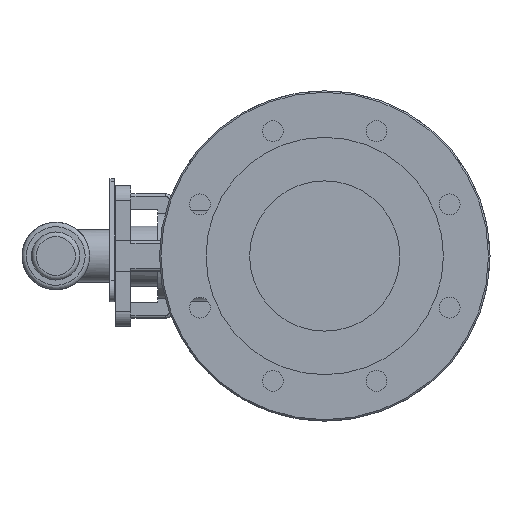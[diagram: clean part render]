
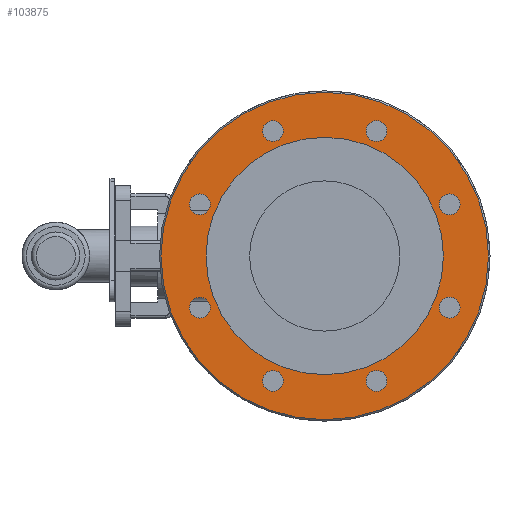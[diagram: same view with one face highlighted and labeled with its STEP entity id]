
A CAD part, left-side view. The second image highlights one B-rep face of the part: STEP entity #103875.
In plain terms, the highlighted planar face has unit normal (-1, 0, 0).
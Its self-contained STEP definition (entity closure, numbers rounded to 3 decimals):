
#103492=CARTESIAN_POINT('',(-72.0,-34.442,90.067));
#103493=VERTEX_POINT('',#103492);
#103494=CARTESIAN_POINT('',(-72.0,-34.442,83.149));
#103495=DIRECTION('',(1.0,0.0,0.0));
#103496=DIRECTION('',(0.0,0.0,1.0));
#103497=AXIS2_PLACEMENT_3D('',#103494,#103495,#103496);
#103498=CIRCLE('',#103497,6.918);
#103499=EDGE_CURVE('',#103493,#103493,#103498,.T.);
#103512=CARTESIAN_POINT('',(-72.0,-83.149,41.359));
#103513=VERTEX_POINT('',#103512);
#103514=CARTESIAN_POINT('',(-72.0,-83.149,34.442));
#103515=DIRECTION('',(1.0,0.0,0.0));
#103516=DIRECTION('',(0.0,0.0,1.0));
#103517=AXIS2_PLACEMENT_3D('',#103514,#103515,#103516);
#103518=CIRCLE('',#103517,6.918);
#103519=EDGE_CURVE('',#103513,#103513,#103518,.T.);
#103532=CARTESIAN_POINT('',(-72.0,-83.149,-27.524));
#103533=VERTEX_POINT('',#103532);
#103534=CARTESIAN_POINT('',(-72.0,-83.149,-34.442));
#103535=DIRECTION('',(1.0,0.0,0.0));
#103536=DIRECTION('',(0.0,0.0,1.0));
#103537=AXIS2_PLACEMENT_3D('',#103534,#103535,#103536);
#103538=CIRCLE('',#103537,6.918);
#103539=EDGE_CURVE('',#103533,#103533,#103538,.T.);
#103552=CARTESIAN_POINT('',(-72.0,-34.442,-76.232));
#103553=VERTEX_POINT('',#103552);
#103554=CARTESIAN_POINT('',(-72.0,-34.442,-83.149));
#103555=DIRECTION('',(1.0,0.0,0.0));
#103556=DIRECTION('',(0.0,0.0,1.0));
#103557=AXIS2_PLACEMENT_3D('',#103554,#103555,#103556);
#103558=CIRCLE('',#103557,6.918);
#103559=EDGE_CURVE('',#103553,#103553,#103558,.T.);
#103572=CARTESIAN_POINT('',(-72.0,34.442,-76.232));
#103573=VERTEX_POINT('',#103572);
#103574=CARTESIAN_POINT('',(-72.0,34.442,-83.149));
#103575=DIRECTION('',(1.0,0.0,0.0));
#103576=DIRECTION('',(0.0,0.0,1.0));
#103577=AXIS2_PLACEMENT_3D('',#103574,#103575,#103576);
#103578=CIRCLE('',#103577,6.918);
#103579=EDGE_CURVE('',#103573,#103573,#103578,.T.);
#103592=CARTESIAN_POINT('',(-72.0,83.149,-27.524));
#103593=VERTEX_POINT('',#103592);
#103594=CARTESIAN_POINT('',(-72.0,83.149,-34.442));
#103595=DIRECTION('',(1.0,0.0,0.0));
#103596=DIRECTION('',(0.0,0.0,1.0));
#103597=AXIS2_PLACEMENT_3D('',#103594,#103595,#103596);
#103598=CIRCLE('',#103597,6.918);
#103599=EDGE_CURVE('',#103593,#103593,#103598,.T.);
#103612=CARTESIAN_POINT('',(-72.0,83.149,41.359));
#103613=VERTEX_POINT('',#103612);
#103614=CARTESIAN_POINT('',(-72.0,83.149,34.442));
#103615=DIRECTION('',(1.0,0.0,0.0));
#103616=DIRECTION('',(0.0,0.0,1.0));
#103617=AXIS2_PLACEMENT_3D('',#103614,#103615,#103616);
#103618=CIRCLE('',#103617,6.918);
#103619=EDGE_CURVE('',#103613,#103613,#103618,.T.);
#103632=CARTESIAN_POINT('',(-72.0,34.442,90.067));
#103633=VERTEX_POINT('',#103632);
#103634=CARTESIAN_POINT('',(-72.0,34.442,83.149));
#103635=DIRECTION('',(1.0,0.0,0.0));
#103636=DIRECTION('',(0.0,0.0,1.0));
#103637=AXIS2_PLACEMENT_3D('',#103634,#103635,#103636);
#103638=CIRCLE('',#103637,6.918);
#103639=EDGE_CURVE('',#103633,#103633,#103638,.T.);
#103817=CARTESIAN_POINT('',(-72.0,109.0,0.));
#103818=VERTEX_POINT('',#103817);
#103819=CARTESIAN_POINT('',(-72.0,0.0,0.0));
#103820=DIRECTION('',(1.0,0.0,0.0));
#103821=DIRECTION('',(0.0,-1.0,0.0));
#103822=AXIS2_PLACEMENT_3D('',#103819,#103820,#103821);
#103823=CIRCLE('',#103822,109.0);
#103824=EDGE_CURVE('',#103818,#103818,#103823,.T.);
#103832=CARTESIAN_POINT('',(-72.0,94.5,0.0));
#103833=DIRECTION('',(-1.0,0.0,0.0));
#103834=DIRECTION('',(0.0,0.0,1.0));
#103835=AXIS2_PLACEMENT_3D('',#103832,#103833,#103834);
#103836=PLANE('',#103835);
#103837=ORIENTED_EDGE('',*,*,#103824,.F.);
#103838=EDGE_LOOP('',(#103837));
#103839=FACE_OUTER_BOUND('',#103838,.T.);
#103840=ORIENTED_EDGE('',*,*,#103499,.T.);
#103841=EDGE_LOOP('',(#103840));
#103842=FACE_BOUND('',#103841,.T.);
#103843=ORIENTED_EDGE('',*,*,#103519,.T.);
#103844=EDGE_LOOP('',(#103843));
#103845=FACE_BOUND('',#103844,.T.);
#103846=ORIENTED_EDGE('',*,*,#103539,.T.);
#103847=EDGE_LOOP('',(#103846));
#103848=FACE_BOUND('',#103847,.T.);
#103849=ORIENTED_EDGE('',*,*,#103559,.T.);
#103850=EDGE_LOOP('',(#103849));
#103851=FACE_BOUND('',#103850,.T.);
#103852=ORIENTED_EDGE('',*,*,#103579,.T.);
#103853=EDGE_LOOP('',(#103852));
#103854=FACE_BOUND('',#103853,.T.);
#103855=ORIENTED_EDGE('',*,*,#103599,.T.);
#103856=EDGE_LOOP('',(#103855));
#103857=FACE_BOUND('',#103856,.T.);
#103858=ORIENTED_EDGE('',*,*,#103619,.T.);
#103859=EDGE_LOOP('',(#103858));
#103860=FACE_BOUND('',#103859,.T.);
#103861=ORIENTED_EDGE('',*,*,#103639,.T.);
#103862=EDGE_LOOP('',(#103861));
#103863=FACE_BOUND('',#103862,.T.);
#103864=CARTESIAN_POINT('',(-72.0,79.0,0.0));
#103865=VERTEX_POINT('',#103864);
#103866=CARTESIAN_POINT('',(-72.0,0.0,0.0));
#103867=DIRECTION('',(1.0,0.0,0.0));
#103868=DIRECTION('',(0.0,1.0,0.0));
#103869=AXIS2_PLACEMENT_3D('',#103866,#103867,#103868);
#103870=CIRCLE('',#103869,79.0);
#103871=EDGE_CURVE('',#103865,#103865,#103870,.T.);
#103872=ORIENTED_EDGE('',*,*,#103871,.T.);
#103873=EDGE_LOOP('',(#103872));
#103874=FACE_BOUND('',#103873,.T.);
#103875=ADVANCED_FACE('',(#103839,#103842,#103845,#103848,#103851,#103854,#103857,#103860,#103863,#103874),#103836,.T.);
